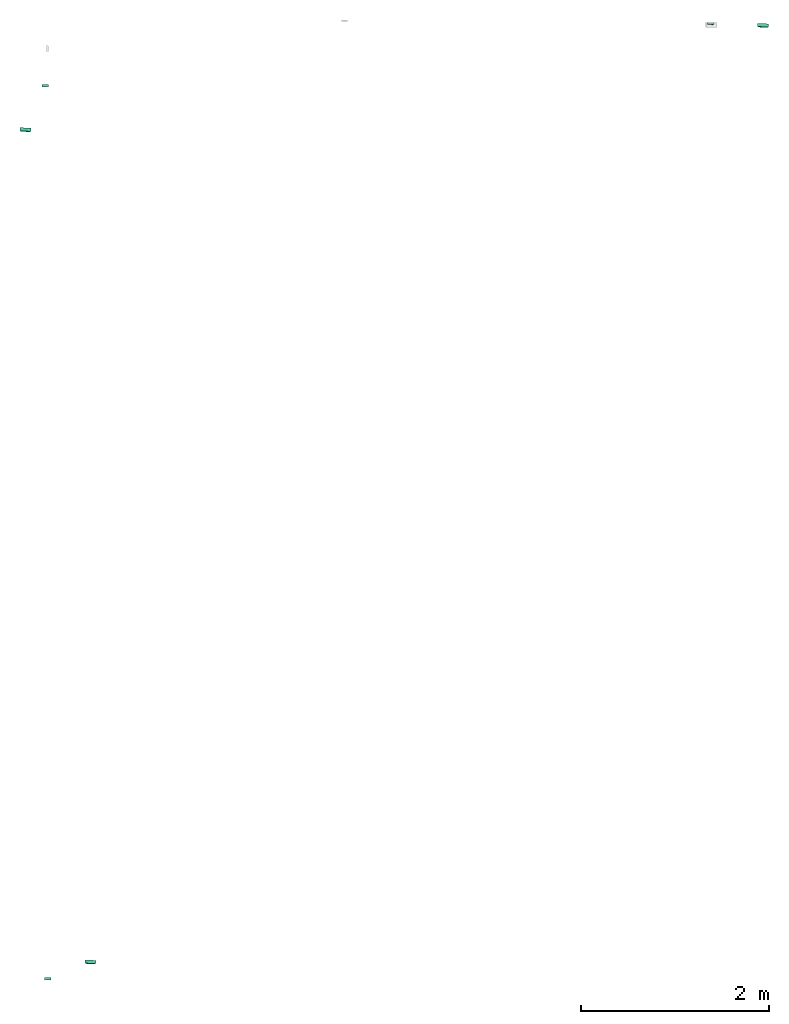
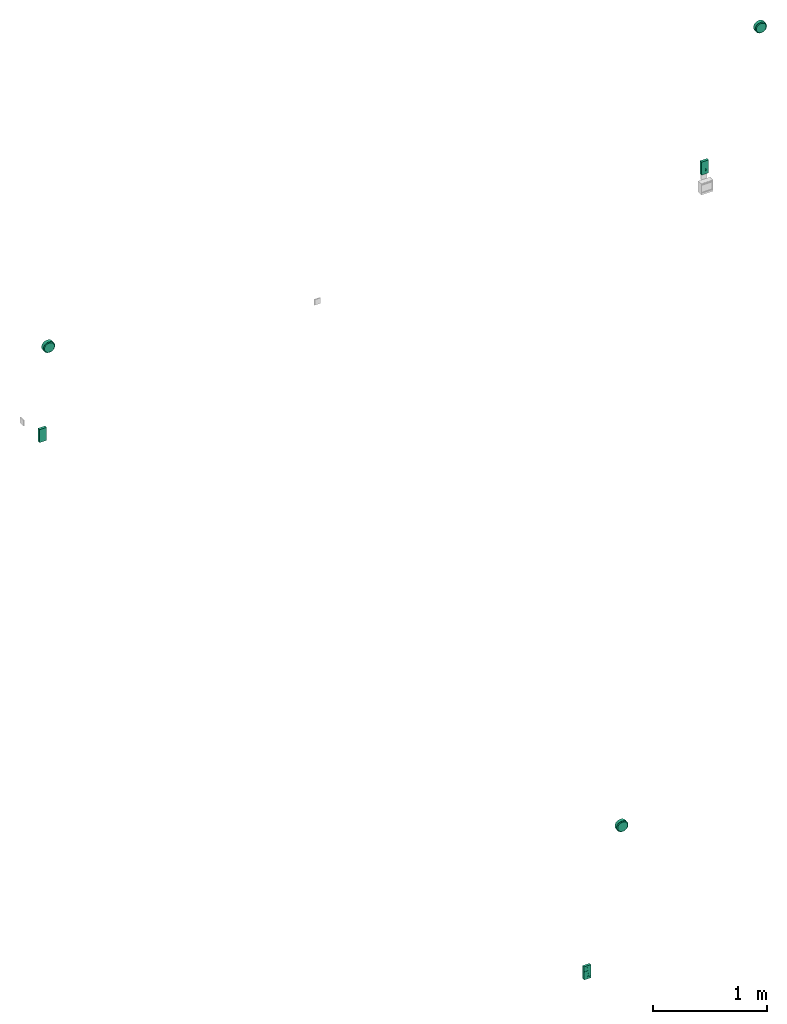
# One storey, part 1 of 3: 3 distribution control elements, 3 flow fittings.
"""IFC2X3 building model written with IfcOpenShell, lengths in millimetres."""

from ifc_helpers import new_model, entity, si_unit, converted_unit, derived_unit, direction, frame, origin_with_axes, place, context, subcontext, project, spatial, open_shell, surface_model, source, transform, mapped, type_object, element, save


model = new_model("IFC2X3")

# Units and contexts
model_context = context("Model", 3, precision=0.01, world=frame((0.0, 4.29681676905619e-09, 0.0)), true_north=direction((4.01073788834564e-13, 1.0)))
plan_context = context("Plan", 3, precision=0.01, world=frame((0.0, 4.29681676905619e-09, 0.0)), true_north=direction((4.01073788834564e-13, 1.0)))
body_context = subcontext(model_context, "Body", "Model", "MODEL_VIEW")
ifc_project = project(units=[converted_unit("PLANEANGLEUNIT", "DEGREE", entity("IfcPositiveLengthMeasure", 0.0174532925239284), si_unit("PLANEANGLEUNIT", "RADIAN"), dimensions=[0, 0, 0, 0, 0, 0, 0]), si_unit("AREAUNIT", "SQUARE_METRE"), si_unit("LENGTHUNIT", "METRE", prefix="MILLI"), si_unit("MASSUNIT", "GRAM", prefix="KILO"), si_unit("POWERUNIT", "WATT"), si_unit("PRESSUREUNIT", "PASCAL"), si_unit("FORCEUNIT", "NEWTON", prefix="KILO"), si_unit("ELECTRICVOLTAGEUNIT", "VOLT"), si_unit("ELECTRICCURRENTUNIT", "AMPERE"), si_unit("THERMODYNAMICTEMPERATUREUNIT", "DEGREE_CELSIUS"), si_unit("TIMEUNIT", "SECOND"), si_unit("VOLUMEUNIT", "CUBIC_METRE"), derived_unit("LINEARVELOCITYUNIT", [(si_unit("LENGTHUNIT", "METRE"), 1), (si_unit("TIMEUNIT", "SECOND"), -1)]), derived_unit("VOLUMETRICFLOWRATEUNIT", [(si_unit("VOLUMEUNIT", "CUBIC_METRE"), 1), (si_unit("TIMEUNIT", "SECOND"), -1)]), derived_unit("THERMALTRANSMITTANCEUNIT", [(si_unit("POWERUNIT", "WATT"), 1), (si_unit("THERMODYNAMICTEMPERATUREUNIT", "KELVIN"), -1), (si_unit("AREAUNIT", "SQUARE_METRE"), -1)]), derived_unit("SOUNDPRESSUREUNIT", [(si_unit("PRESSUREUNIT", "PASCAL"), 1)])], contexts=[model_context, plan_context])

# Site, building, storey
site_placement = place(None, frame((0.0, -4.29681676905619e-09, 0.0), z_axis=(0.0, 0.0, 1.0), x_axis=(1.0, 0.0, 0.0)))
site = spatial("IfcSite", under=ifc_project, at=site_placement, Name="ENGM", CompositionType="ELEMENT")
building_placement = place(site_placement, frame((0.0, 4.29681676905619e-09, 0.0), z_axis=(0.0, 0.0, 1.0), x_axis=(1.0, 0.0, 0.0)))
building = spatial("IfcBuilding", under=site, at=building_placement, Name="TI", CompositionType="ELEMENT")
storey_placement = place(building_placement, frame((0.0, 0.0, 210900.0), z_axis=(0.0, 0.0, 1.0), x_axis=(1.0, 0.0, 0.0)))
storey = spatial("IfcBuildingStorey", under=building, at=storey_placement, Name="Nivå F", CompositionType="ELEMENT", Elevation=210900.0)

# Distribution control elements
alarm_type = type_object("IfcAlarmType", Name="SECURITY ALARM 3", PredefinedType="NOTDEFINED")
shared_shape_1 = source(origin_with_axes(), body_context, "Body", "SurfaceModel", [
    surface_model("IfcShellBasedSurfaceModel", [(14.0, 25.0, 39.91502), (-14.0, 25.0, 39.91502), (14.0, 25.0, 38.91503), (-14.0, 25.0, 38.91503), (14.0, 25.2, 38.91503), (-14.0, 25.2, 38.91503), (14.0, 25.2, 39.91502), (-14.0, 25.2, 39.91502), (14.0, 25.0, 41.92565), (-14.0, 25.0, 41.92565), (14.0, 25.0, 40.92565), (-14.0, 25.0, 40.92565), (14.0, 25.2, 40.92565), (-14.0, 25.2, 40.92565), (14.0, 25.2, 41.92565), (-14.0, 25.2, 41.92565), (14.0, 25.0, 43.93627), (-14.0, 25.0, 43.93627), (14.0, 25.0, 42.93627), (-14.0, 25.0, 42.93627), (14.0, 25.2, 42.93627), (-14.0, 25.2, 42.93627), (14.0, 25.2, 43.93627), (-14.0, 25.2, 43.93627), (14.0, 25.0, 45.94689), (-14.0, 25.0, 45.94689), (14.0, 25.0, 44.94689), (-14.0, 25.0, 44.94689), (14.0, 25.2, 44.94689), (-14.0, 25.2, 44.94689), (14.0, 25.2, 45.94689), (-14.0, 25.2, 45.94689), (14.0, 25.0, 47.95751), (-14.0, 25.0, 47.95751), (14.0, 25.0, 46.95751), (-14.0, 25.0, 46.95751), (14.0, 25.2, 46.95751), (-14.0, 25.2, 46.95751), (14.0, 25.2, 47.95751), (-14.0, 25.2, 47.95751), (14.0, 25.0, 49.96813), (-14.0, 25.0, 49.96813), (14.0, 25.0, 48.96813), (-14.0, 25.0, 48.96813), (14.0, 25.2, 48.96813), (-14.0, 25.2, 48.96813), (14.0, 25.2, 49.96813), (-14.0, 25.2, 49.96813), (14.0, 25.0, 51.97875), (-14.0, 25.0, 51.97875), (14.0, 25.0, 50.97876), (-14.0, 25.0, 50.97876), (14.0, 25.2, 50.97876), (-14.0, 25.2, 50.97876), (14.0, 25.2, 51.97875), (-14.0, 25.2, 51.97875), (14.0, 25.0, 53.98938), (-14.0, 25.0, 53.98938), (14.0, 25.0, 52.98938), (-14.0, 25.0, 52.98938), (14.0, 25.2, 52.98938), (-14.0, 25.2, 52.98938), (14.0, 25.2, 53.98938), (-14.0, 25.2, 53.98938), (14.0, 25.0, 56.0), (-14.0, 25.0, 56.0), (14.0, 25.0, 55.0), (-14.0, 25.0, 55.0), (14.0, 25.2, 55.0), (-14.0, 25.2, 55.0), (14.0, 25.2, 56.0), (-14.0, 25.2, 56.0), (-35.0, 0.0, 70.0), (-35.0, 0.0, -70.0), (35.0, 0.0, -70.0), (35.0, 0.0, 70.0), (35.0, 25.0, 70.0), (35.0, 25.0, -70.0), (-35.0, 25.0, -70.0), (-35.0, 25.0, 70.0), (-21.5, 27.0, -20.2), (-21.5, 27.0, -12.2), (-6.5, 27.0, -20.2), (-6.5, 27.0, -12.2), (-6.5, 25.0, -20.2), (-6.5, 25.0, -12.2), (-21.5, 25.0, -20.2), (-21.5, 25.0, -12.2), (-7.50481, 25.0, -30.45), (-8.6967, 25.0, -39.5033), (-6.75556, 25.0, -32.25886), (-12.05886, 25.0, -26.95556), (-8.6967, 25.0, -28.8967), (-15.94114, 25.0, -41.44445), (-10.25, 25.0, -27.70481), (-6.75556, 25.0, -36.14114), (-7.50481, 25.0, -37.95), (-6.5, 25.0, -34.2), (-12.05886, 25.0, -41.44445), (-10.25, 25.0, -40.69519), (-14.0, 25.0, -41.7), (-14.0, 25.0, -26.7), (-15.94114, 25.0, -26.95556), (-17.75, 25.0, -27.70481), (-19.3033, 25.0, -28.8967), (-21.24444, 25.0, -32.25886), (-20.49519, 25.0, -30.45), (-21.5, 25.0, -34.2), (-19.3033, 25.0, -39.5033), (-17.75, 25.0, -40.69519), (-21.24444, 25.0, -36.14114), (-20.49519, 25.0, -37.95), (-21.24444, 27.0, -32.25886), (-21.24444, 27.0, -36.14114), (-21.5, 27.0, -34.2), (-19.3033, 27.0, -28.8967), (-20.49519, 27.0, -30.45), (-17.75, 27.0, -27.70481), (-15.94114, 27.0, -26.95556), (-8.6967, 27.0, -39.5033), (-15.94114, 27.0, -41.44445), (-19.3033, 27.0, -39.5033), (-20.49519, 27.0, -37.95), (-17.75, 27.0, -40.69519), (-14.0, 27.0, -41.7), (-12.05886, 27.0, -26.95556), (-7.50481, 27.0, -30.45), (-10.25, 27.0, -27.70481), (-8.6967, 27.0, -28.8967), (-6.75556, 27.0, -32.25886), (-12.05886, 27.0, -41.44445), (-10.25, 27.0, -40.69519), (-6.75556, 27.0, -36.14114), (-7.50481, 27.0, -37.95), (-6.5, 27.0, -34.2), (-14.0, 27.0, -26.7), (35.0, 25.2, -49.0), (-35.0, 25.2, -49.0), (-35.0, 25.2, -48.2), (35.0, 25.2, -48.2), (35.0, 25.0, -48.2), (-35.0, 25.0, -48.2), (-35.0, 25.0, -49.0), (35.0, 25.0, -49.0), (28.0, 25.0, 16.0), (-28.0, 25.0, 16.0), (-28.0, 25.0, 2.0), (28.0, 25.0, 2.0), (28.0, 25.2, 2.0), (-28.0, 25.2, 2.0), (-28.0, 25.2, 16.0), (28.0, 25.2, 16.0), (35.0, 25.0, 28.0), (-35.0, 25.0, 28.0), (-35.0, 25.0, 27.2), (35.0, 25.0, 27.2), (35.0, 25.2, 27.2), (-35.0, 25.2, 27.2), (-35.0, 25.2, 28.0), (35.0, 25.2, 28.0)], [open_shell([[[0, 1, 2]], [[3, 2, 1]], [[4, 5, 6]], [[7, 6, 5]], [[3, 1, 7]], [[7, 5, 3]], [[2, 3, 5]], [[5, 4, 2]], [[0, 2, 4]], [[4, 6, 0]], [[1, 0, 6]], [[6, 7, 1]], [[8, 9, 10]], [[11, 10, 9]], [[12, 13, 14]], [[15, 14, 13]], [[11, 9, 15]], [[15, 13, 11]], [[10, 11, 13]], [[13, 12, 10]], [[8, 10, 12]], [[12, 14, 8]], [[9, 8, 14]], [[14, 15, 9]], [[16, 17, 18]], [[19, 18, 17]], [[20, 21, 22]], [[23, 22, 21]], [[19, 17, 23]], [[23, 21, 19]], [[18, 19, 21]], [[21, 20, 18]], [[16, 18, 20]], [[20, 22, 16]], [[17, 16, 22]], [[22, 23, 17]], [[24, 25, 26]], [[27, 26, 25]], [[28, 29, 30]], [[31, 30, 29]], [[27, 25, 31]], [[31, 29, 27]], [[26, 27, 29]], [[29, 28, 26]], [[24, 26, 28]], [[28, 30, 24]], [[25, 24, 30]], [[30, 31, 25]], [[32, 33, 34]], [[35, 34, 33]], [[36, 37, 38]], [[39, 38, 37]], [[35, 33, 39]], [[39, 37, 35]], [[34, 35, 37]], [[37, 36, 34]], [[32, 34, 36]], [[36, 38, 32]], [[33, 32, 38]], [[38, 39, 33]], [[40, 41, 42]], [[43, 42, 41]], [[44, 45, 46]], [[47, 46, 45]], [[43, 41, 47]], [[47, 45, 43]], [[42, 43, 45]], [[45, 44, 42]], [[40, 42, 44]], [[44, 46, 40]], [[41, 40, 46]], [[46, 47, 41]], [[48, 49, 50]], [[51, 50, 49]], [[52, 53, 54]], [[55, 54, 53]], [[51, 49, 55]], [[55, 53, 51]], [[50, 51, 53]], [[53, 52, 50]], [[48, 50, 52]], [[52, 54, 48]], [[49, 48, 54]], [[54, 55, 49]], [[56, 57, 58]], [[59, 58, 57]], [[60, 61, 62]], [[63, 62, 61]], [[59, 57, 63]], [[63, 61, 59]], [[58, 59, 61]], [[61, 60, 58]], [[56, 58, 60]], [[60, 62, 56]], [[57, 56, 62]], [[62, 63, 57]], [[64, 65, 66]], [[67, 66, 65]], [[68, 69, 70]], [[71, 70, 69]], [[67, 65, 71]], [[71, 69, 67]], [[66, 67, 69]], [[69, 68, 66]], [[64, 66, 68]], [[68, 70, 64]], [[65, 64, 70]], [[70, 71, 65]], [[72, 73, 74]], [[74, 75, 72]], [[76, 77, 78]], [[78, 79, 76]], [[74, 73, 78]], [[78, 77, 74]], [[75, 74, 77]], [[77, 76, 75]], [[72, 75, 76]], [[76, 79, 72]], [[73, 72, 78]], [[79, 78, 72]], [[80, 81, 82]], [[83, 82, 81]], [[84, 85, 86]], [[87, 86, 85]], [[83, 81, 85]], [[87, 85, 81]], [[82, 83, 85]], [[85, 84, 82]], [[80, 82, 86]], [[84, 86, 82]], [[81, 80, 87]], [[86, 87, 80]], [[88, 89, 90]], [[91, 88, 92]], [[89, 88, 93]], [[91, 92, 94]], [[93, 88, 91]], [[95, 89, 96]], [[89, 95, 97]], [[89, 98, 99]], [[89, 97, 90]], [[89, 100, 98]], [[91, 101, 102]], [[102, 103, 104]], [[91, 104, 93]], [[93, 104, 105]], [[105, 104, 106]], [[93, 105, 107]], [[93, 108, 109]], [[100, 89, 93]], [[108, 110, 111]], [[108, 93, 107]], [[110, 108, 107]], [[91, 102, 104]], [[112, 113, 114]], [[115, 112, 116]], [[115, 117, 118]], [[112, 115, 119]], [[119, 120, 112]], [[113, 121, 122]], [[113, 112, 121]], [[121, 120, 123]], [[112, 120, 121]], [[120, 119, 124]], [[118, 119, 115]], [[119, 118, 125]], [[126, 125, 127]], [[119, 125, 126]], [[126, 127, 128]], [[119, 126, 129]], [[130, 119, 131]], [[124, 119, 130]], [[119, 132, 133]], [[132, 119, 134]], [[129, 134, 119]], [[118, 135, 125]], [[98, 124, 130]], [[131, 99, 130]], [[96, 119, 133]], [[119, 89, 131]], [[132, 95, 133]], [[130, 99, 98]], [[98, 100, 124]], [[95, 96, 133]], [[89, 119, 96]], [[89, 99, 131]], [[97, 95, 132]], [[132, 134, 97]], [[129, 90, 134]], [[126, 88, 129]], [[94, 128, 127]], [[128, 92, 126]], [[127, 125, 91]], [[126, 92, 88]], [[88, 90, 129]], [[101, 91, 125]], [[94, 127, 91]], [[94, 92, 128]], [[135, 101, 125]], [[134, 90, 97]], [[118, 102, 135]], [[117, 103, 118]], [[106, 115, 116]], [[117, 115, 104]], [[105, 116, 112]], [[118, 103, 102]], [[102, 101, 135]], [[105, 106, 116]], [[104, 115, 106]], [[104, 103, 117]], [[107, 105, 112]], [[112, 114, 107]], [[113, 110, 114]], [[122, 111, 113]], [[109, 121, 123]], [[122, 121, 108]], [[93, 123, 120]], [[122, 108, 111]], [[111, 110, 113]], [[100, 93, 120]], [[109, 123, 93]], [[109, 108, 121]], [[124, 100, 120]], [[114, 110, 107]], [[136, 137, 138]], [[138, 139, 136]], [[140, 141, 142]], [[142, 143, 140]], [[138, 137, 142]], [[142, 141, 138]], [[139, 138, 140]], [[141, 140, 138]], [[136, 139, 140]], [[140, 143, 136]], [[137, 136, 142]], [[143, 142, 136]], [[144, 145, 146]], [[146, 147, 144]], [[148, 149, 150]], [[150, 151, 148]], [[146, 145, 150]], [[150, 149, 146]], [[147, 146, 148]], [[149, 148, 146]], [[144, 147, 148]], [[148, 151, 144]], [[145, 144, 150]], [[151, 150, 144]], [[152, 153, 154]], [[154, 155, 152]], [[156, 157, 158]], [[158, 159, 156]], [[154, 153, 158]], [[158, 157, 154]], [[155, 154, 156]], [[157, 156, 154]], [[152, 155, 156]], [[156, 159, 152]], [[153, 152, 158]], [[159, 158, 152]]])]),
])
for number, where, z_axis, x_axis, name in (
    (1, (605574.6778, 699275.27142, 980.0), (0.0, 0.0, 1.0), (-1.0, 0.0, 0.0), "SECURITY ALARM 3"),
    (2, (598505.00976, 689095.0, 1000.0), (0.0, 0.0, 1.0), (-1.0, 0.0, 0.0), "SECURITY ALARM 3"),
    (3, (598477.65395, 698585.0, 1000.0), (0.0, 0.0, 1.0), (1.0, 0.0, 0.0), "SECURITY ALARM 3"),
):
    element("IfcDistributionControlElement", number, at=place(storey_placement, frame(where, z_axis=z_axis, x_axis=x_axis)), inside=storey, type_object=alarm_type, Name=name, context=body_context, shape_type="MappedRepresentation", body=[
        mapped(shared_shape_1, transform((0.0, 0.0, 0.0), scale=1.0)),
    ])

# Flow fittings
junction_box_type = type_object("IfcJunctionBoxType", Name="Junction box round1", PredefinedType="NOTDEFINED")
shared_shape_2 = source(origin_with_axes(), body_context, "Body", "SurfaceModel", [
    surface_model("IfcShellBasedSurfaceModel", [(-42.32699, 41.1, 24.4375), (-48.875, 41.1, 0.0), (-47.20962, 41.1, 12.64978), (-24.4375, 41.1, 42.32699), (-34.55984, 41.1, 34.55984), (-12.64978, 41.1, 47.20962), (0.0, 41.1, 48.875), (-24.4375, 41.1, -42.32699), (-42.32699, 41.1, -24.4375), (-47.20962, 41.1, -12.64978), (-34.55984, 41.1, -34.55984), (42.32699, 41.1, 24.4375), (-12.64978, 41.1, -47.20962), (34.55984, 41.1, 34.55984), (12.64978, 41.1, 47.20962), (24.4375, 41.1, 42.32699), (47.20962, 41.1, 12.64978), (48.875, 41.1, 0.0), (34.55984, 41.1, -34.55984), (12.64978, 41.1, -47.20962), (24.4375, 41.1, -42.32699), (0.0, 41.1, -48.875), (42.32699, 41.1, -24.4375), (47.20962, 41.1, -12.64978), (48.875, 40.9, 0.0), (47.20962, 40.9, 12.64978), (42.32699, 40.9, 24.4375), (-12.64978, 40.9, -47.20962), (34.55984, 40.9, 34.55984), (24.4375, 40.9, 42.32699), (12.64978, 40.9, 47.20962), (0.0, 40.9, -48.875), (34.55984, 40.9, -34.55984), (42.32699, 40.9, -24.4375), (47.20962, 40.9, -12.64978), (12.64978, 40.9, -47.20962), (24.4375, 40.9, -42.32699), (0.0, 40.9, 48.875), (-12.64978, 40.9, 47.20962), (-34.55984, 40.9, 34.55984), (-24.4375, 40.9, 42.32699), (-42.32699, 40.9, 24.4375), (-47.20962, 40.9, 12.64978), (-24.4375, 40.9, -42.32699), (-42.32699, 40.9, -24.4375), (-34.55984, 40.9, -34.55984), (-48.875, 40.9, 0.0), (-47.20962, 40.9, -12.64978), (47.6496, 41.0, -10.87571), (38.21201, 41.0, -30.47307), (21.20607, 41.0, -44.03485), (0.0, 41.0, -48.875), (47.6496, 41.0, 10.87571), (38.21201, 41.0, 30.47307), (0.0, 41.0, 48.875), (21.20607, 41.0, 44.03485), (-21.20607, 41.0, -44.03485), (-38.21201, 41.0, -30.47307), (-47.6496, 41.0, -10.87571), (-21.20607, 41.0, 44.03485), (-47.6496, 41.0, 10.87571), (-38.21201, 41.0, 30.47307), (-24.94832, 34.85, -51.80571), (56.05836, 34.85, 12.79495), (44.95531, 34.85, 35.85066), (24.94832, 34.85, -51.80571), (44.95531, 34.85, -35.85066), (56.05836, 34.85, -12.79495), (0.0, 34.85, -57.5), (24.94832, 34.85, 51.80571), (-56.05836, 34.85, -12.79495), (0.0, 34.85, 57.5), (-24.94832, 34.85, 51.80571), (-56.05836, 34.85, 12.79495), (-44.95531, 34.85, 35.85066), (-44.95531, 34.85, -35.85066), (-14.13908, 41.0, 45.64785), (-12.47416, 34.85, 54.65286), (-50.50683, 34.85, 24.32281), (-42.93081, 41.0, 20.67439), (-56.05836, 34.85, 0.0), (-34.95181, 34.85, 43.82819), (-29.70904, 41.0, 37.25396), (-42.93081, 41.0, -20.67439), (-50.50683, 34.85, -24.32281), (-47.6496, 41.0, 0.0), (-10.60303, 41.0, -46.45493), (-34.95181, 34.85, -43.82819), (-29.70904, 41.0, -37.25396), (-16.63421, 34.85, -53.70335), (14.13908, 41.0, -45.64785), (12.47416, 34.85, -54.65286), (50.50683, 34.85, -24.32281), (42.93081, 41.0, -20.67439), (56.05836, 34.85, 0.0), (34.95181, 34.85, -43.82819), (29.70904, 41.0, -37.25396), (42.93081, 41.0, 20.67439), (50.50683, 34.85, 24.32281), (47.6496, 41.0, 0.0), (10.60303, 41.0, 46.45493), (34.95181, 34.85, 43.82819), (29.70904, 41.0, 37.25396), (16.63421, 34.85, 53.70335), (-49.79646, 34.85, 28.75), (-57.5, 34.85, 0.0), (-55.54074, 34.85, 14.88209), (-28.75, 34.85, 49.79646), (-40.65864, 34.85, 40.65864), (-49.79646, 34.85, -28.75), (-14.88209, 34.85, 55.54074), (40.65864, 34.85, 40.65864), (-55.54074, 34.85, -14.88209), (-28.75, 34.85, -49.79646), (-40.65864, 34.85, -40.65864), (-14.88209, 34.85, -55.54074), (57.5, 34.85, 0.0), (14.88209, 34.85, 55.54074), (28.75, 34.85, 49.79646), (55.54074, 34.85, 14.88209), (49.79646, 34.85, 28.75), (28.75, 34.85, -49.79646), (14.88209, 34.85, -55.54074), (40.65864, 34.85, -40.65864), (55.54074, 34.85, -14.88209), (49.79646, 34.85, -28.75), (40.65864, 0.0, 40.65864), (57.5, 0.0, 0.0), (55.54074, 0.0, 14.88209), (49.79646, 0.0, 28.75), (28.75, 0.0, 49.79646), (14.88209, 0.0, 55.54074), (55.54074, 0.0, -14.88209), (40.65864, 0.0, -40.65864), (49.79646, 0.0, -28.75), (0.0, 0.0, -57.5), (28.75, 0.0, -49.79646), (14.88209, 0.0, -55.54074), (-28.75, 0.0, 49.79646), (-14.88209, 0.0, 55.54074), (-14.88209, 0.0, -55.54074), (-49.79646, 0.0, 28.75), (-57.5, 0.0, 0.0), (-40.65864, 0.0, 40.65864), (-55.54074, 0.0, 14.88209), (-28.75, 0.0, -49.79646), (-49.79646, 0.0, -28.75), (-40.65864, 0.0, -40.65864), (-55.54074, 0.0, -14.88209), (0.0, 0.0, 57.5)], [open_shell([[[0, 1, 2]], [[3, 0, 4]], [[5, 6, 0]], [[5, 0, 3]], [[7, 0, 6]], [[1, 8, 9]], [[1, 0, 8]], [[8, 7, 10]], [[0, 7, 8]], [[7, 11, 12]], [[7, 6, 13]], [[14, 15, 13]], [[13, 11, 7]], [[11, 16, 17]], [[17, 12, 11]], [[12, 17, 18]], [[19, 18, 20]], [[18, 19, 21]], [[18, 21, 12]], [[17, 22, 18]], [[17, 23, 22]], [[13, 6, 14]], [[24, 25, 26]], [[27, 24, 26]], [[28, 29, 30]], [[27, 26, 28]], [[31, 24, 27]], [[24, 32, 33]], [[33, 34, 24]], [[32, 35, 36]], [[35, 32, 31]], [[31, 32, 24]], [[37, 28, 30]], [[38, 27, 37]], [[39, 38, 40]], [[38, 41, 27]], [[41, 38, 39]], [[42, 27, 41]], [[43, 44, 45]], [[44, 43, 27]], [[44, 46, 47]], [[46, 44, 27]], [[27, 42, 46]], [[37, 27, 28]], [[27, 12, 31]], [[43, 7, 27]], [[8, 45, 44]], [[43, 45, 10]], [[9, 44, 47]], [[27, 7, 12]], [[12, 21, 31]], [[9, 8, 44]], [[10, 45, 8]], [[10, 7, 43]], [[1, 9, 47]], [[47, 46, 1]], [[42, 2, 46]], [[41, 0, 42]], [[3, 39, 40]], [[41, 39, 4]], [[5, 40, 38]], [[41, 4, 0]], [[0, 2, 42]], [[6, 5, 38]], [[3, 40, 5]], [[3, 4, 39]], [[37, 6, 38]], [[46, 2, 1]], [[30, 14, 37]], [[29, 15, 30]], [[11, 28, 26]], [[29, 28, 13]], [[16, 26, 25]], [[30, 15, 14]], [[14, 6, 37]], [[16, 11, 26]], [[13, 28, 11]], [[13, 15, 29]], [[17, 16, 25]], [[25, 24, 17]], [[34, 23, 24]], [[33, 22, 34]], [[20, 32, 36]], [[33, 32, 18]], [[19, 36, 35]], [[33, 18, 22]], [[22, 23, 34]], [[21, 19, 35]], [[20, 36, 19]], [[20, 18, 32]], [[31, 21, 35]], [[24, 23, 17]], [[48, 49, 50]], [[48, 50, 51]], [[52, 48, 53]], [[54, 55, 53]], [[54, 53, 48]], [[48, 51, 56]], [[54, 56, 57]], [[54, 57, 58]], [[59, 54, 60]], [[60, 61, 59]], [[54, 58, 60]], [[56, 54, 48]], [[62, 63, 64]], [[65, 63, 62]], [[66, 67, 65]], [[65, 67, 63]], [[65, 62, 68]], [[69, 62, 64]], [[70, 71, 72]], [[73, 72, 74]], [[62, 71, 75]], [[75, 71, 70]], [[72, 73, 70]], [[71, 62, 69]], [[59, 72, 76]], [[76, 72, 77]], [[78, 79, 60]], [[54, 76, 77]], [[58, 70, 80]], [[61, 81, 82]], [[72, 82, 81]], [[77, 71, 54]], [[70, 83, 84]], [[82, 72, 59]], [[61, 79, 74]], [[57, 75, 84]], [[80, 85, 58]], [[73, 85, 80]], [[84, 83, 57]], [[60, 73, 78]], [[86, 51, 68]], [[74, 79, 78]], [[61, 74, 81]], [[87, 88, 56]], [[89, 56, 86]], [[70, 58, 83]], [[75, 88, 87]], [[75, 57, 88]], [[62, 56, 89]], [[56, 62, 87]], [[60, 85, 73]], [[68, 89, 86]], [[50, 65, 90]], [[90, 65, 91]], [[92, 93, 48]], [[51, 90, 91]], [[52, 63, 94]], [[49, 95, 96]], [[65, 96, 95]], [[91, 68, 51]], [[63, 97, 98]], [[96, 65, 50]], [[49, 93, 66]], [[53, 64, 98]], [[94, 99, 52]], [[67, 99, 94]], [[98, 97, 53]], [[48, 67, 92]], [[100, 54, 71]], [[66, 93, 92]], [[49, 66, 95]], [[101, 102, 55]], [[103, 55, 100]], [[63, 52, 97]], [[64, 102, 101]], [[64, 53, 102]], [[69, 55, 103]], [[55, 69, 101]], [[48, 99, 67]], [[71, 103, 100]], [[104, 105, 106]], [[107, 104, 108]], [[109, 107, 110]], [[107, 109, 104]], [[110, 111, 109]], [[105, 109, 112]], [[105, 104, 109]], [[109, 113, 114]], [[113, 109, 115]], [[109, 116, 115]], [[117, 110, 71]], [[117, 118, 111]], [[111, 116, 109]], [[119, 116, 111]], [[119, 111, 120]], [[115, 116, 68]], [[68, 121, 122]], [[121, 68, 123]], [[123, 124, 125]], [[124, 123, 68]], [[68, 116, 124]], [[111, 110, 117]], [[126, 127, 128]], [[126, 128, 129]], [[126, 130, 131]], [[127, 126, 132]], [[132, 126, 131]], [[132, 133, 134]], [[133, 132, 135]], [[136, 135, 137]], [[135, 136, 133]], [[132, 131, 135]], [[131, 138, 135]], [[131, 139, 138]], [[140, 135, 138]], [[138, 141, 142]], [[141, 138, 143]], [[141, 144, 142]], [[145, 146, 147]], [[146, 145, 140]], [[146, 142, 148]], [[146, 140, 138]], [[138, 142, 146]], [[139, 131, 149]], [[140, 115, 135]], [[145, 113, 140]], [[109, 147, 146]], [[145, 147, 114]], [[112, 146, 148]], [[140, 113, 115]], [[115, 68, 135]], [[112, 109, 146]], [[114, 147, 109]], [[114, 113, 145]], [[105, 112, 148]], [[148, 142, 105]], [[144, 106, 142]], [[141, 104, 144]], [[107, 143, 138]], [[141, 143, 108]], [[110, 138, 139]], [[141, 108, 104]], [[104, 106, 144]], [[149, 71, 110]], [[107, 138, 110]], [[107, 108, 143]], [[139, 149, 110]], [[142, 106, 105]], [[131, 117, 149]], [[130, 118, 131]], [[120, 126, 129]], [[130, 126, 111]], [[119, 129, 128]], [[131, 118, 117]], [[117, 71, 149]], [[119, 120, 129]], [[111, 126, 120]], [[111, 118, 130]], [[116, 119, 128]], [[128, 127, 116]], [[127, 132, 124]], [[121, 136, 137]], [[136, 123, 133]], [[122, 137, 135]], [[124, 134, 125]], [[134, 124, 132]], [[125, 134, 123]], [[134, 133, 123]], [[136, 121, 123]], [[122, 121, 137]], [[135, 68, 122]], [[127, 124, 116]]])]),
])
for number, where, z_axis, x_axis, name in (
    (4, (606130.23718, 699261.61486, 2300.0), (0.0, 0.0, 1.0), (-0.998485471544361, 0.0550160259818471, 0.0), "Junction box round1"),
    (5, (598961.99775, 689280.0, 2300.0), (0.0, 0.0, 1.0), (-0.998485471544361, 0.0550160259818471, 0.0), "Junction box round1"),
    (6, (598269.97384, 698149.84356, 2300.0), (0.0, 0.0, 1.0), (-0.998485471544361, 0.0550160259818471, 0.0), "Junction box round1"),
):
    element("IfcFlowFitting", number, at=place(storey_placement, frame(where, z_axis=z_axis, x_axis=x_axis)), inside=storey, type_object=junction_box_type, Name=name, context=body_context, shape_type="MappedRepresentation", body=[
        mapped(shared_shape_2, transform((0.0, 0.0, 0.0), scale=1.0)),
    ])

save(model, "model.ifc")
